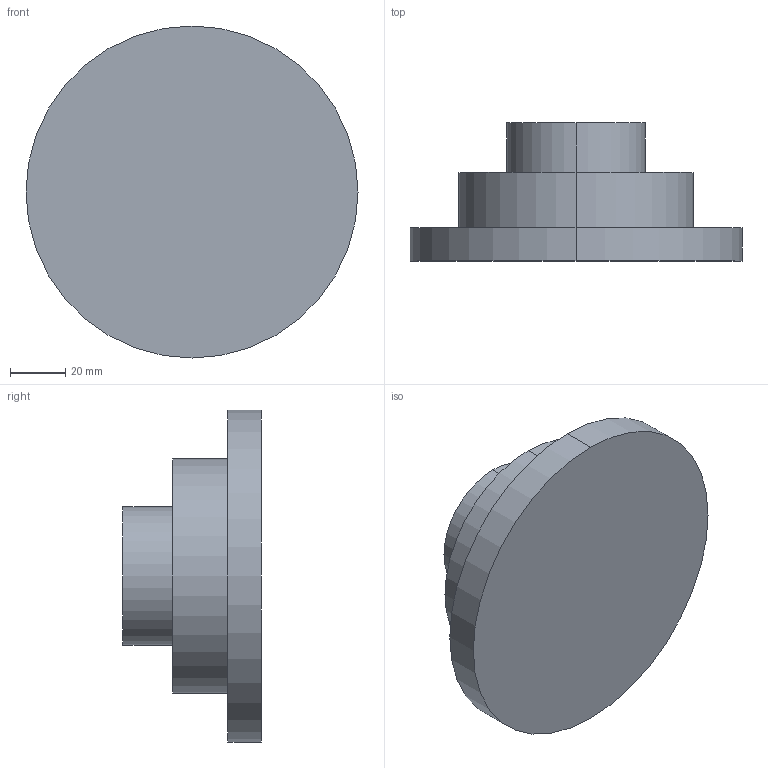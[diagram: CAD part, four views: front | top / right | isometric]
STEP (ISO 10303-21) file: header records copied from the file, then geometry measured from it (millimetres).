
FILE_DESCRIPTION (( 'STEP AP214' ), '1' );
FILE_NAME ('c08tut03_modified.STEP', '2006-12-01T03:33:25', ( 'cadsoft' ), ( '' ), 'SwSTEP 2.0', 'SolidWorks 2007', '' );
FILE_SCHEMA (( 'AUTOMOTIVE_DESIGN' ));
Length unit declared in the file: millimetre
Products named in the file (1): c08tut03_modified
Bounding box: 120 x 50 x 120 mm (x, y, z)
Volume: 266395.3 mm3; surface area: 40322.3 mm2
Topology: 1 solids, 1 shells, 25 faces, 48 edges, 32 vertices
Faces by surface type: cylinder 16, plane 9
Entity records: 677 total; most frequent: DIRECTION 132, CARTESIAN_POINT 106, ORIENTED_EDGE 96, AXIS2_PLACEMENT_3D 58, EDGE_CURVE 48, EDGE_LOOP 32, VERTEX_POINT 32, CIRCLE 32
